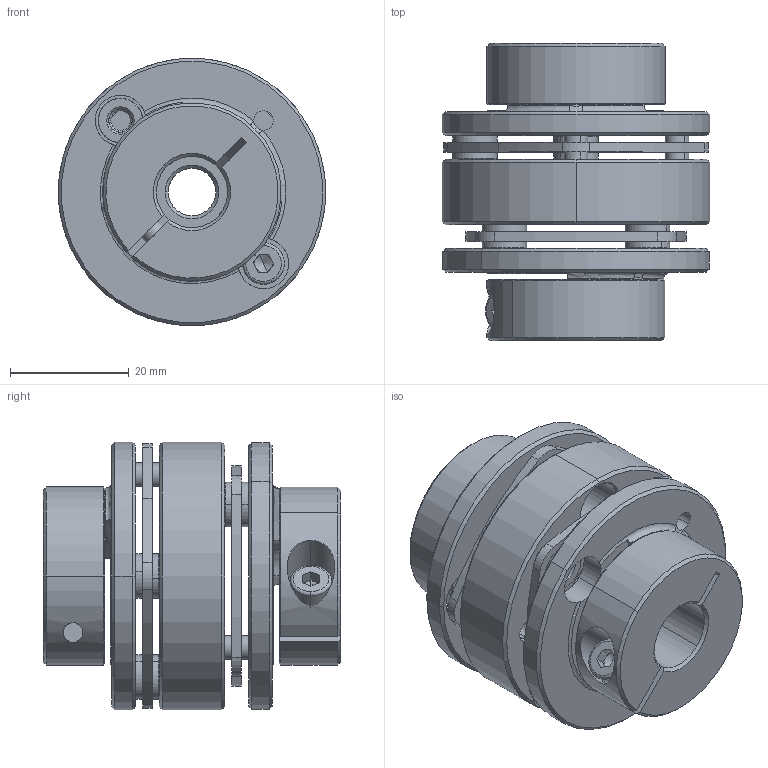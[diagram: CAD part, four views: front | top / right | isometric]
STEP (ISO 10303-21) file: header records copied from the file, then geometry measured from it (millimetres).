
FILE_DESCRIPTION (( 'STEP AP203' ), '1' );
FILE_NAME ('LE2-B-D45L50-8-12.STEP', '2021-11-01T06:27:01', ( '' ), ( '' ), 'SwSTEP 2.0', 'SolidWorks 2018', '' );
FILE_SCHEMA (( 'CONFIG_CONTROL_DESIGN' ));
Length unit declared in the file: millimetre
Products named in the file (1): LE2-B-D45L50-8-12
Bounding box: 45 x 50 x 45 mm (x, y, z)
Volume: 37327.8 mm3; surface area: 23953.5 mm2
Topology: 1 solids, 5 shells, 494 faces, 1194 edges, 732 vertices
Faces by surface type: cylinder 178, cone 154, plane 142, torus 18, bspline 2
Entity records: 14963 total; most frequent: CARTESIAN_POINT 2891, DIRECTION 2748, ORIENTED_EDGE 2364, EDGE_CURVE 1182, AXIS2_PLACEMENT_3D 1123, VERTEX_POINT 732, CIRCLE 630, EDGE_LOOP 586
